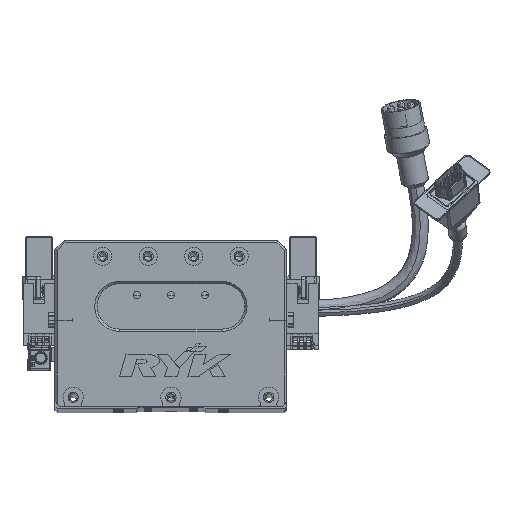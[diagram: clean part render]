
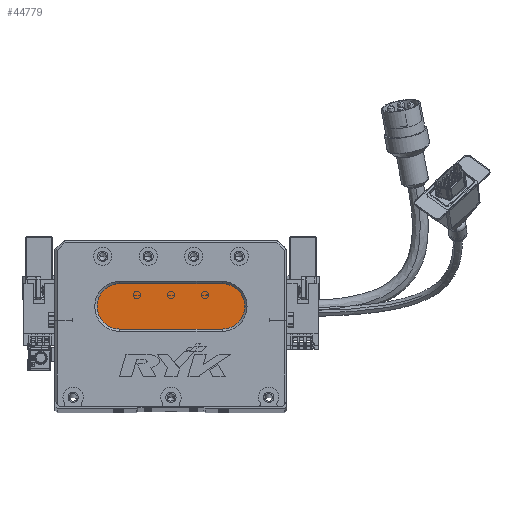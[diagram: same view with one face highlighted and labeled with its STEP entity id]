
A CAD part, top view. The second image highlights one B-rep face of the part: STEP entity #44779.
In plain terms, the highlighted planar face has unit normal (0, 0, 1) as drawn and (0, 0, -1) by its records, which use the part's own axes.
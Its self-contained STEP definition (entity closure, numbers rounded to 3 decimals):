
#414 = VERTEX_POINT ( 'NONE', #10870 ) ;
#1401 = ORIENTED_EDGE ( 'NONE', *, *, #52170, .T. ) ;
#3292 = DIRECTION ( 'NONE',  ( -1., 0., 0. ) ) ;
#4708 = EDGE_CURVE ( 'NONE', #43757, #24158, #34420, .T. ) ;
#6052 = CIRCLE ( 'NONE', #27404, 10. ) ;
#7277 = EDGE_CURVE ( 'NONE', #27249, #43757, #8507, .T. ) ;
#7516 = DIRECTION ( 'NONE',  ( -1., 0., 0. ) ) ;
#8507 = CIRCLE ( 'NONE', #62951, 10. ) ;
#8879 = CARTESIAN_POINT ( 'NONE',  ( 28.5, 54., 13. ) ) ;
#10086 = FACE_OUTER_BOUND ( 'NONE', #41636, .T. ) ;
#10870 = CARTESIAN_POINT ( 'NONE',  ( 28.5, 34., 13. ) ) ;
#16026 = CIRCLE ( 'NONE', #52923, 10. ) ;
#16329 = DIRECTION ( 'NONE',  ( -1., 0., 0. ) ) ;
#19593 = PLANE ( 'NONE',  #23051 ) ;
#23051 = AXIS2_PLACEMENT_3D ( 'NONE', #62028, #67365, #35785 ) ;
#24158 = VERTEX_POINT ( 'NONE', #53005 ) ;
#25818 = DIRECTION ( 'NONE',  ( 0., 0., -1. ) ) ;
#25826 = DIRECTION ( 'NONE',  ( 1., 0., 0. ) ) ;
#27249 = VERTEX_POINT ( 'NONE', #30520 ) ;
#27404 = AXIS2_PLACEMENT_3D ( 'NONE', #63182, #25818, #16329 ) ;
#29071 = CARTESIAN_POINT ( 'NONE',  ( 73.5, 34., 13. ) ) ;
#29959 = DIRECTION ( 'NONE',  ( 0., 0., -1. ) ) ;
#30520 = CARTESIAN_POINT ( 'NONE',  ( 18.5, 44., 13. ) ) ;
#34420 = LINE ( 'NONE', #36962, #59294 ) ;
#34691 = EDGE_CURVE ( 'NONE', #24158, #46201, #16026, .T. ) ;
#35785 = DIRECTION ( 'NONE',  ( -1., 0., 0. ) ) ;
#36962 = CARTESIAN_POINT ( 'NONE',  ( 73.5, 54., 13. ) ) ;
#39779 = CARTESIAN_POINT ( 'NONE',  ( 73.5, 44., 13. ) ) ;
#40431 = ORIENTED_EDGE ( 'NONE', *, *, #7277, .T. ) ;
#41636 = EDGE_LOOP ( 'NONE', ( #54285, #1401, #48551, #40431, #63675 ) ) ;
#43338 = EDGE_CURVE ( 'NONE', #414, #27249, #6052, .T. ) ;
#43757 = VERTEX_POINT ( 'NONE', #8879 ) ;
#44779 = ADVANCED_FACE ( 'NONE', ( #10086 ), #19593, .T. ) ;
#44823 = VECTOR ( 'NONE', #7516, 1000. ) ;
#46201 = VERTEX_POINT ( 'NONE', #65261 ) ;
#48551 = ORIENTED_EDGE ( 'NONE', *, *, #43338, .T. ) ;
#51033 = CARTESIAN_POINT ( 'NONE',  ( 28.5, 44., 13. ) ) ;
#52170 = EDGE_CURVE ( 'NONE', #46201, #414, #59719, .T. ) ;
#52923 = AXIS2_PLACEMENT_3D ( 'NONE', #39779, #61818, #61583 ) ;
#53005 = CARTESIAN_POINT ( 'NONE',  ( 73.5, 54., 13. ) ) ;
#54285 = ORIENTED_EDGE ( 'NONE', *, *, #34691, .T. ) ;
#59294 = VECTOR ( 'NONE', #25826, 1000. ) ;
#59719 = LINE ( 'NONE', #29071, #44823 ) ;
#61583 = DIRECTION ( 'NONE',  ( -1., 0., 0. ) ) ;
#61818 = DIRECTION ( 'NONE',  ( 0., 0., -1. ) ) ;
#62028 = CARTESIAN_POINT ( 'NONE',  ( 73.5, 44., 13. ) ) ;
#62951 = AXIS2_PLACEMENT_3D ( 'NONE', #51033, #29959, #3292 ) ;
#63182 = CARTESIAN_POINT ( 'NONE',  ( 28.5, 44., 13. ) ) ;
#63675 = ORIENTED_EDGE ( 'NONE', *, *, #4708, .T. ) ;
#65261 = CARTESIAN_POINT ( 'NONE',  ( 73.5, 34., 13. ) ) ;
#67365 = DIRECTION ( 'NONE',  ( 0., 0., -1. ) ) ;
